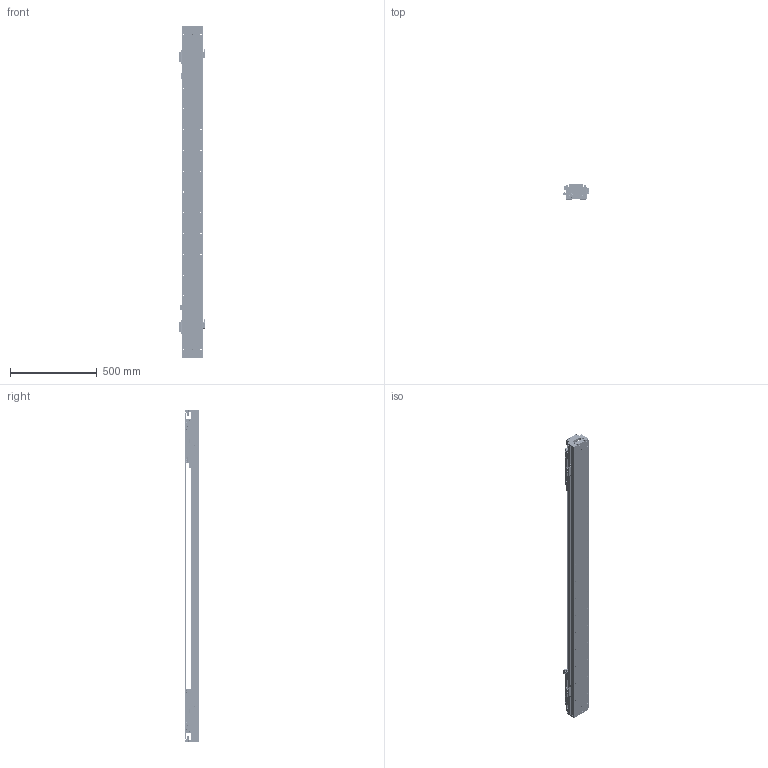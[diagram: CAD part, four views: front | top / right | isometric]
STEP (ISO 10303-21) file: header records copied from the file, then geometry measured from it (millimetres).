
FILE_DESCRIPTION (( 'STEP AP203' ), '1' );
FILE_NAME ('DKW120-2×B3-W060（T1280-L005-0.2）.STEP', '2021-09-28T08:25:42', ( '微软用户' ), ( '微软中国' ), 'SwSTEP 2.0', 'SolidWorks 2018', '' );
FILE_SCHEMA (( 'CONFIG_CONTROL_DESIGN' ));
Length unit declared in the file: millimetre
Products named in the file (22): RUS嫖掑喜; 06652-0001-004-00 DKW120嶺輸菜輸; DKW-KGZ-ZJ-00 中间光电开关支架; Ru2; DKW-HXJ-JY-00 遣喳砎蝶; DKW120-2×B3-W060（T1280-L005-0.2）; DKW119-RU-DTJ-00 RU2黍杅芛盓殤; 10940-0001-004-00 120詩湍裔啣; 10980-0001-003-00 嫖萇羲壽嘐隅釱; 砎蝶猾沭; DKW-SG-GYP-H-00 嫖萇覜茼え; 12160-0000-003-00 DKW120詩湍嶺輸; EE_SX674A; 12160-0000-004-00  DKW120詩湍揤輸; DKW120-B15-T300-DZ-00 菁釱; B3-W060_00; DKW120 单轴模组-拉钢带组件; MSB15-DG-U; DKW-DG-XJ-Z-00 笢潔滅袉砎蝶; BKMA01-W060-TRL280; 06652-0001-001-00 DKW120傷啣; DKW-GYP-ZJ-00 笢潔嫖萇覜茼え
Assembly tree (41 placements, depth 3):
  DKW120-2×B3-W060（T1280-L005-0.2）
    DKW120-B15-T300-DZ-00 菁釱
    MSB15-DG-U  x2
    DKW120 单轴模组-拉钢带组件
      06652-0001-001-00 DKW120傷啣  x2
      06652-0001-004-00 DKW120嶺輸菜輸  x4
      DKW-HXJ-JY-00 遣喳砎蝶  x4
      10940-0001-004-00 120詩湍裔啣
      砎蝶猾沭  x2
      12160-0000-003-00 DKW120詩湍嶺輸  x2
      12160-0000-004-00  DKW120詩湍揤輸  x2
    BKMA01-W060-TRL280
    RUS嫖掑喜
    Ru2  x2
    DKW119-RU-DTJ-00 RU2黍杅芛盓殤  x2
    10980-0001-003-00 嫖萇羲壽嘐隅釱  x2
    DKW-SG-GYP-H-00 嫖萇覜茼え  x2
    EE_SX674A  x5
    B3-W060_00  x2
    DKW-DG-XJ-Z-00 笢潔滅袉砎蝶
    DKW-GYP-ZJ-00 笢潔嫖萇覜茼え
    DKW-KGZ-ZJ-00 中间光电开关支架
Bounding box: 154.1 x 84 x 1916 mm (x, y, z)
Volume: 7686999.4 mm3; surface area: 2878811.7 mm2
Topology: 60 solids, 158 shells, 6540 faces, 17710 edges, 11395 vertices
Faces by surface type: plane 3578, cylinder 1948, cone 520, bspline 494
Entity records: 141430 total; most frequent: CARTESIAN_POINT 48510, ORIENTED_EDGE 19205, DIRECTION 17902, EDGE_CURVE 9643, VERTEX_POINT 6325, AXIS2_PLACEMENT_3D 5994, VECTOR 5914, LINE 5914
